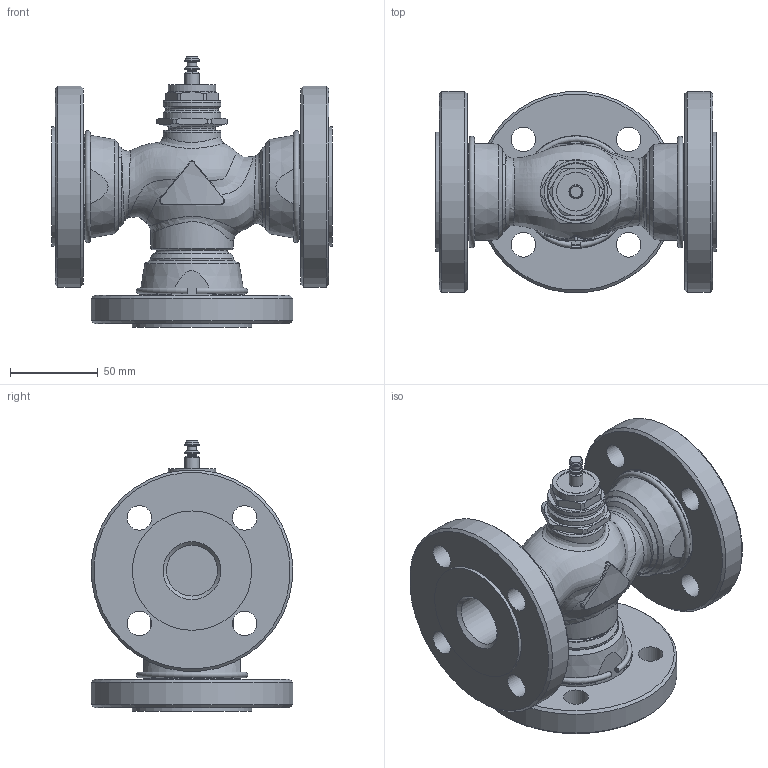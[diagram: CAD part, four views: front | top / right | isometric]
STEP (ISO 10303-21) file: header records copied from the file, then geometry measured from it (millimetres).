
FILE_DESCRIPTION(/* description */ (''),/* implementation_level */ '2;1');
FILE_NAME(/* name */ 'rv111s_dn25_3_F.stp',/* time_stamp */ '2012-02-27T14:55:11+01:00',/* author */ ('KLIMES'),/* organization */ ('LDM'),/* preprocessor_version */ 'ST-DEVELOPER v11',/* originating_system */ 'SIEMENS PLM Software NX 7.0',/* authorisation */ '');
FILE_SCHEMA (('CONFIG_CONTROL_DESIGN'));
Length unit declared in the file: millimetre
Products named in the file (1): klimEE991wfl
Bounding box: 160 x 114.56 x 153.9 mm (x, y, z)
Volume: 791683.3 mm3; surface area: 141665.1 mm2
Topology: 7 solids, 7 shells, 240 faces, 541 edges, 340 vertices
Faces by surface type: cylinder 71, plane 66, cone 58, torus 25, bspline 20
Full cylindrical faces by diameter (mm): 5.3 x1, 5.5 x1, 8 x3, 14 x12, 22 x1, 26.5 x1, 27 x1, 29 x3, 33 x3, 40 x1, 44.845 x3, 47 x1, 47.8 x2, 47.803 x1, 48 x3, 68 x3, 115 x3
Entity records: 11721 total; most frequent: CARTESIAN_POINT 7017, DIRECTION 954, ORIENTED_EDGE 788, AXIS2_PLACEMENT_3D 444, EDGE_LOOP 400, EDGE_CURVE 394, VERTEX_POINT 298, FACE_BOUND 294
